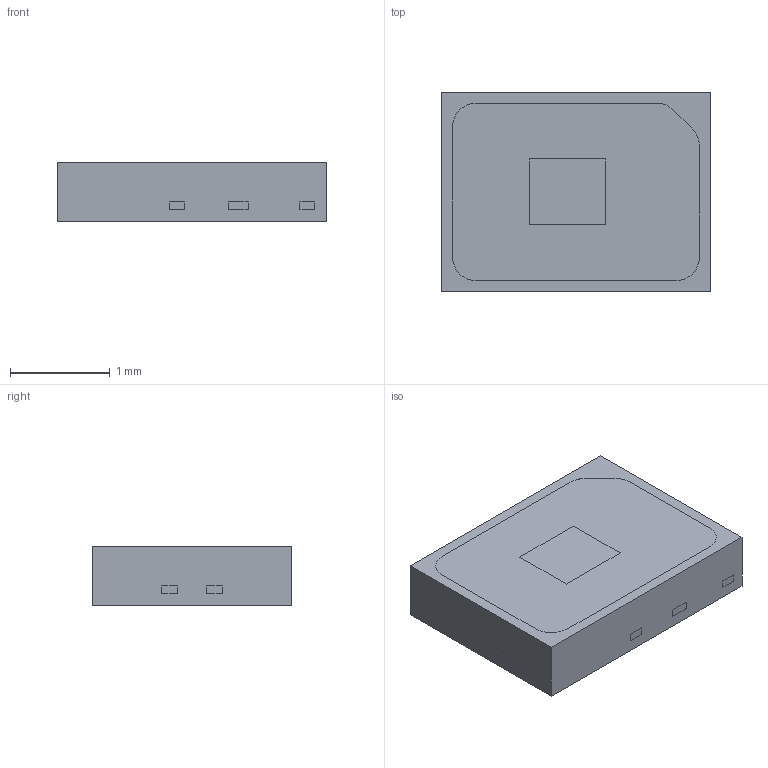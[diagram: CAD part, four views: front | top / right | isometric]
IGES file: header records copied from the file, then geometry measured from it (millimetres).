
Start section: SolidWorks IGES file using analytic representation for surfaces
Global section: file name: C:\Users\user\Desktop\车灯产品3D图（光学模型）\青光\LQJ1-C\LQJ1-C.IGS; native system: SolidWorks 2022; preprocessor: SolidWorks 2022; author: user; date: 250522.183437; units: millimetre
Bounding box: 2.7 x 2 x 0.6 mm (x, y, z)
Surface area: 31.8 mm2 (no closed solid volume)
Topology: 0 solids, 0 shells, 152 faces, 2079 edges, 2900 vertices
Faces by surface type: bspline 152
